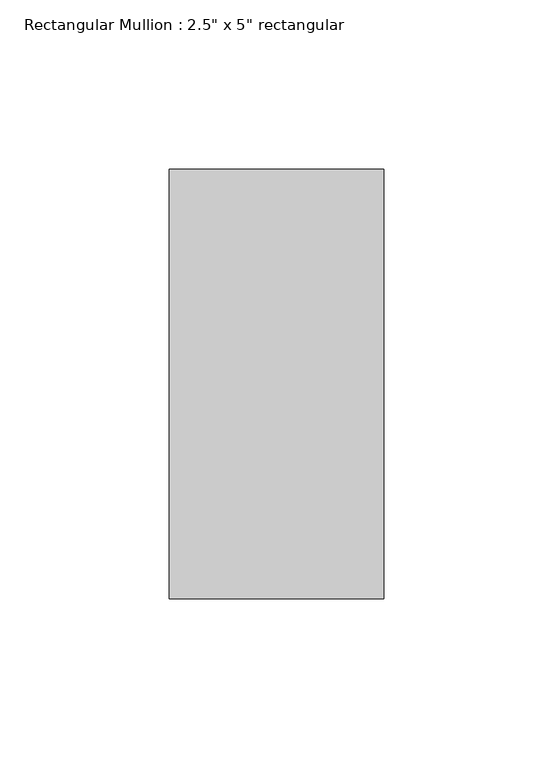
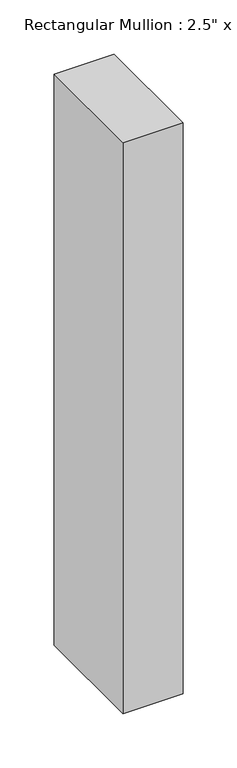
"""IFC4 building model written with IfcOpenShell, lengths in millimetres: member geometry."""

from ifc_helpers import new_model, si_unit, frame, origin, place, context, project, spatial, polyline, outline, extrude, source, transform, mapped, element, save


def member_dad99500(model_context):
    return source(origin(), model_context, "Body", "SweptSolid", [
        extrude(outline(polyline([(0.0, 63.5), (0.0, -63.5), (-63.5, -63.5), (-63.5, 63.5), (0.0, 63.5)])), frame((0.0, 0.0, -641.35), z_axis=(0.0, 0.0, 1.0), x_axis=(1.0, 0.0, 0.0)), (0.0, 0.0, 1.0), 641.35),
    ])


if __name__ == "__main__":
    model = new_model("IFC4")
    model_context = context("Model", 3, world=origin())
    ifc_project = project(units=[si_unit("LENGTHUNIT", "METRE", prefix="MILLI")], contexts=[model_context])
    site = spatial("IfcSite", under=ifc_project)
    building = spatial("IfcBuilding", under=site)
    placement = place(None, origin())
    member_shape = member_dad99500(model_context)
    element("IfcMember", 1, ObjectType="Rectangular Mullion : 2.5\" x 5\" rectangular", at=placement, inside=building, context=model_context, shape_type="MappedRepresentation", body=[
        mapped(member_shape, transform((0.0, 0.0, 0.0), x_axis=(1.0, 0.0, 0.0), y_axis=(0.0, 1.0, 0.0), z_axis=(0.0, 0.0, 1.0))),
    ])
    save(model, "model.ifc")
